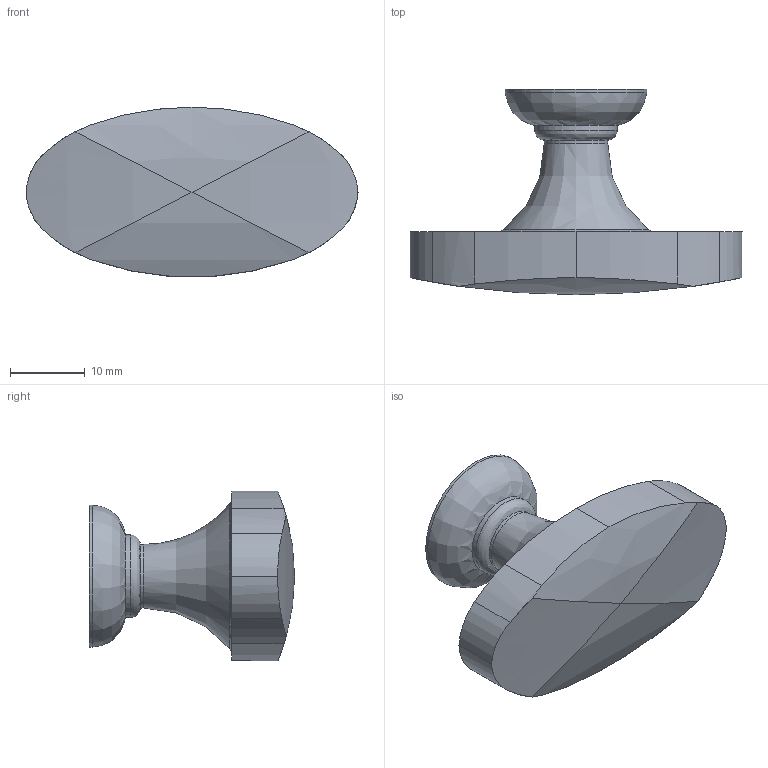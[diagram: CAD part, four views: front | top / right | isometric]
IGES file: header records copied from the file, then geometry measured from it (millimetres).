
Start section: Data from Parasolid IGES Translator 15.0.47, Copyright(c) 2006 Siemens P LM Software. All Rights Reserved.
Global section: file name: 9208064.igs; native system:  By UGS Corp.; preprocessor: XPlus GENERIC/IGES 3.0; author: Noname; organization: Noname; date: 20160303.183324; units: millimetre
Bounding box: 44.5 x 27.5 x 22.74 mm (x, y, z)
Surface area: 3361.8 mm2 (no closed solid volume)
Topology: 0 solids, 0 shells, 27 faces, 122 edges, 113 vertices
Faces by surface type: revolution 24, extrusion 3
